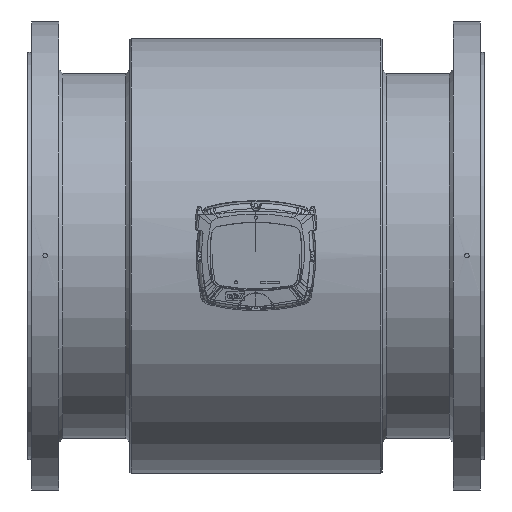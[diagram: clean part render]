
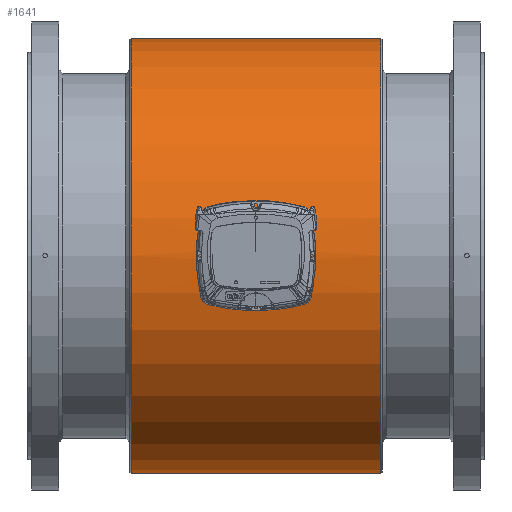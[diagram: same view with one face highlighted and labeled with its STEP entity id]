
A CAD part, top view. The second image highlights one B-rep face of the part: STEP entity #1641.
In plain terms, the highlighted cylindrical face has radius 286 mm (diameter 572 mm), a full revolution.
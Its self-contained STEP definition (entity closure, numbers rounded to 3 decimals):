
#1576=CARTESIAN_POINT('',(0.,-11.498,285.769));
#1577=VERTEX_POINT('',#1576);
#1587=CARTESIAN_POINT('',(0.,-11.499,285.769));
#1588=CARTESIAN_POINT('',(1.736,-11.499,285.769));
#1589=CARTESIAN_POINT('',(5.206,-10.713,285.802));
#1590=CARTESIAN_POINT('',(9.382,-7.416,285.914));
#1591=CARTESIAN_POINT('',(11.698,-2.647,286.004));
#1592=CARTESIAN_POINT('',(11.698,2.648,286.003));
#1593=CARTESIAN_POINT('',(9.38,7.413,285.914));
#1594=CARTESIAN_POINT('',(4.743,11.085,285.789));
#1595=CARTESIAN_POINT('',(-0.04,11.804,285.756));
#1596=CARTESIAN_POINT('',(-3.433,11.029,285.787));
#1597=CARTESIAN_POINT('',(-6.678,9.774,285.835));
#1598=CARTESIAN_POINT('',(-9.772,6.919,285.929));
#1599=CARTESIAN_POINT('',(-11.695,2.056,286.003));
#1600=CARTESIAN_POINT('',(-11.699,-2.645,286.004));
#1601=CARTESIAN_POINT('',(-9.381,-7.416,285.914));
#1602=CARTESIAN_POINT('',(-5.207,-10.713,285.802));
#1603=CARTESIAN_POINT('',(-1.735,-11.499,285.769));
#1604=CARTESIAN_POINT('',(0.,-11.499,285.769));
#1605=B_SPLINE_CURVE_WITH_KNOTS('',3,(#1587,#1588,#1589,#1590,#1591,#1592,#1593,#1594,#1595,#1596,#1597,#1598,#1599,#1600,#1601,#1602,#1603,#1604),.UNSPECIFIED.,.T.,.U.,(4,1,1,1,1,1,1,1,1,1,1,1,1,1,1,4),(-7.258,-6.739,-6.221,-5.702,-5.184,-4.666,-4.147,-3.456,-3.283,-3.11,-2.419,-2.074,-1.555,-1.037,-0.518,0.0),.UNSPECIFIED.);
#1606=EDGE_CURVE('',#1577,#1577,#1605,.T.);
#1611=CARTESIAN_POINT('',(82.0,0.0,0.0));
#1612=DIRECTION('',(1.0,0.0,0.0));
#1613=DIRECTION('',(0.0,1.0,0.0));
#1614=AXIS2_PLACEMENT_3D('',#1611,#1612,#1613);
#1615=CYLINDRICAL_SURFACE('',#1614,286.0);
#1616=CARTESIAN_POINT('',(-164.,286.0,0.0));
#1617=VERTEX_POINT('',#1616);
#1618=CARTESIAN_POINT('',(-164.,0.0,0.0));
#1619=DIRECTION('',(1.0,0.0,0.0));
#1620=DIRECTION('',(0.0,1.0,0.0));
#1621=AXIS2_PLACEMENT_3D('',#1618,#1619,#1620);
#1622=CIRCLE('',#1621,286.0);
#1623=EDGE_CURVE('',#1617,#1617,#1622,.T.);
#1624=ORIENTED_EDGE('',*,*,#1623,.T.);
#1625=EDGE_LOOP('',(#1624));
#1626=FACE_OUTER_BOUND('',#1625,.T.);
#1627=CARTESIAN_POINT('',(164.,286.,0.0));
#1628=VERTEX_POINT('',#1627);
#1629=CARTESIAN_POINT('',(164.,0.0,0.0));
#1630=DIRECTION('',(1.0,0.0,0.0));
#1631=DIRECTION('',(0.0,1.0,0.0));
#1632=AXIS2_PLACEMENT_3D('',#1629,#1630,#1631);
#1633=CIRCLE('',#1632,286.);
#1634=EDGE_CURVE('',#1628,#1628,#1633,.T.);
#1635=ORIENTED_EDGE('',*,*,#1634,.F.);
#1636=EDGE_LOOP('',(#1635));
#1637=FACE_BOUND('',#1636,.T.);
#1638=ORIENTED_EDGE('',*,*,#1606,.F.);
#1639=EDGE_LOOP('',(#1638));
#1640=FACE_BOUND('',#1639,.T.);
#1641=ADVANCED_FACE('',(#1626,#1637,#1640),#1615,.T.);
